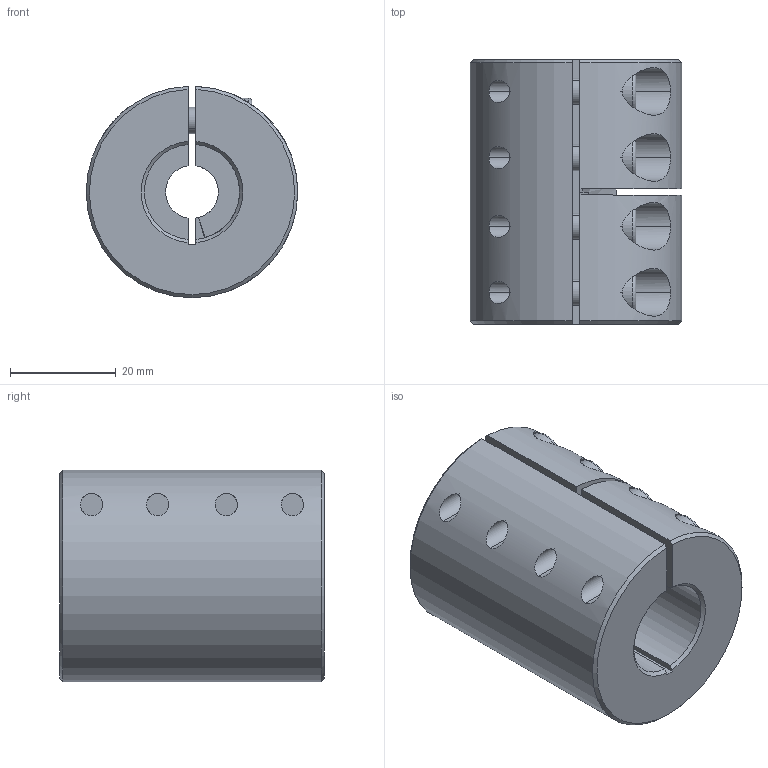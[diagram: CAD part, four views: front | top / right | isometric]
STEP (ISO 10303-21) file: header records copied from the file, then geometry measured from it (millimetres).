
FILE_DESCRIPTION (( 'STEP AP214' ), '1' );
FILE_NAME ('LL-B-D40L50-10-18½¨Ä£.STEP', '2022-07-22T00:17:38', ( '' ), ( '' ), 'SwSTEP 2.0', 'SolidWorks 2022', '' );
FILE_SCHEMA (( 'AUTOMOTIVE_DESIGN' ));
Length unit declared in the file: millimetre
Products named in the file (1): LL-B-D40L50-10-18膘耀
Bounding box: 40 x 50 x 39.99 mm (x, y, z)
Volume: 51254 mm3; surface area: 15579.4 mm2
Topology: 1 solids, 1 shells, 182 faces, 463 edges, 291 vertices
Faces by surface type: plane 88, cylinder 71, cone 15, torus 8
Entity records: 6015 total; most frequent: CARTESIAN_POINT 1525, DIRECTION 971, ORIENTED_EDGE 910, EDGE_CURVE 455, AXIS2_PLACEMENT_3D 377, VERTEX_POINT 291, LINE 217, VECTOR 217
